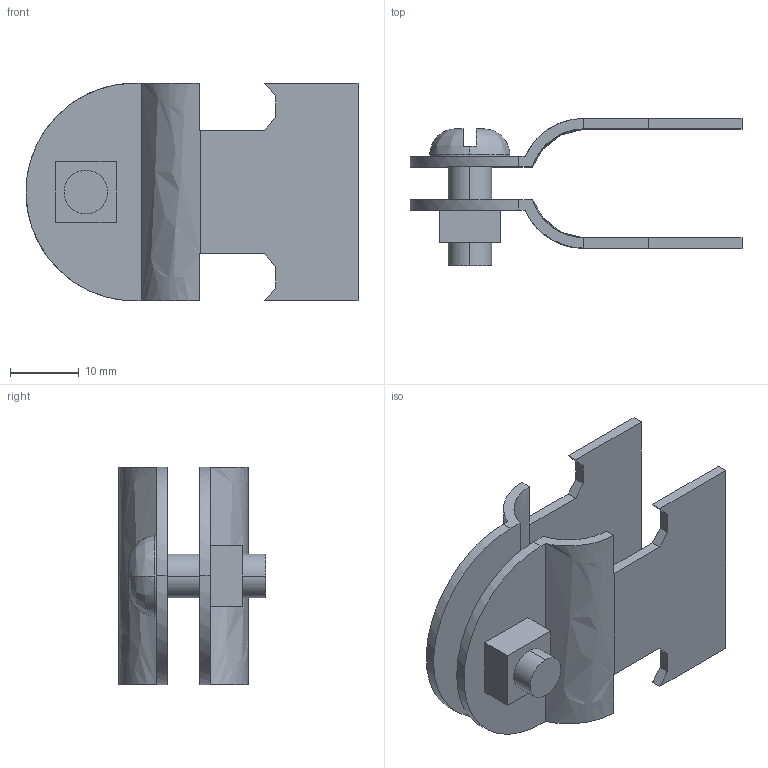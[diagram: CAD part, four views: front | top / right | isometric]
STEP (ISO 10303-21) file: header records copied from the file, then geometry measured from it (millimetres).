
FILE_DESCRIPTION(('TurboCAD Mac Pro'),'Build 980');
FILE_NAME('P2027.stp',' ',(''),(''),'ACIS Interop','IMSI','TurboCAD Mac Pro BY IMSI, INCORPORATED');
FILE_SCHEMA(('automotive_design'));
Length unit declared in the file: inch
Products named in the file (5): 1; 2; 3; 4; 5
Bounding box: 48.4 x 21.43 x 31.74 mm (x, y, z)
Volume: 5151.8 mm3; surface area: 6988.8 mm2
Topology: 4 solids, 4 shells, 75 faces, 194 edges, 128 vertices
Faces by surface type: plane 51, bspline 24
Entity records: 3611 total; most frequent: CARTESIAN_POINT 1186, ORIENTED_EDGE 388, DIRECTION 246, EDGE_CURVE 194, VERTEX_POINT 128, LINE 126, VECTOR 126, STYLED_ITEM 87
